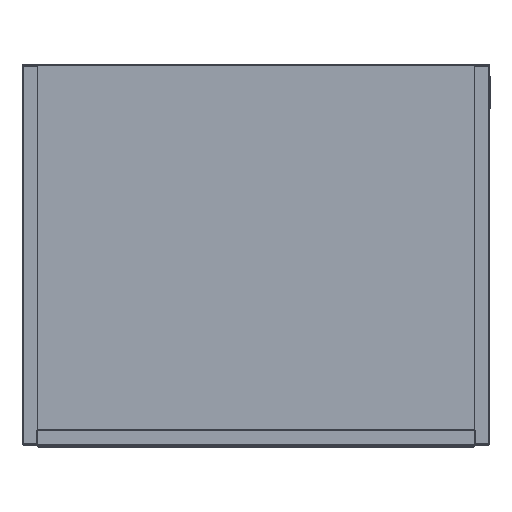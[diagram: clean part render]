
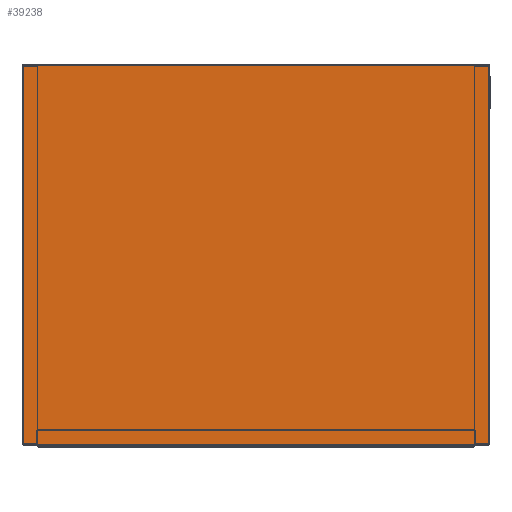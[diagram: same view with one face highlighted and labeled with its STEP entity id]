
A CAD part, top view. The second image highlights one B-rep face of the part: STEP entity #39238.
In plain terms, the highlighted planar face has unit normal (0, 0, 1).
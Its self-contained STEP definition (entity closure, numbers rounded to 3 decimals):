
#3207=ORIENTED_EDGE('',*,*,#13488,.F.);
#3208=ORIENTED_EDGE('',*,*,#13497,.T.);
#3209=ORIENTED_EDGE('',*,*,#13490,.F.);
#3210=ORIENTED_EDGE('',*,*,#13498,.T.);
#3211=ORIENTED_EDGE('',*,*,#13496,.F.);
#3212=ORIENTED_EDGE('',*,*,#13499,.T.);
#3213=ORIENTED_EDGE('',*,*,#13482,.F.);
#3214=ORIENTED_EDGE('',*,*,#13500,.T.);
#13482=EDGE_CURVE('',#18806,#18807,#22450,.T.);
#13488=EDGE_CURVE('',#18812,#18810,#22456,.T.);
#13490=EDGE_CURVE('',#18814,#18815,#22458,.T.);
#13496=EDGE_CURVE('',#18820,#18818,#22464,.T.);
#13497=EDGE_CURVE('',#18812,#18815,#22465,.T.);
#13498=EDGE_CURVE('',#18814,#18818,#22466,.T.);
#13499=EDGE_CURVE('',#18820,#18807,#22467,.T.);
#13500=EDGE_CURVE('',#18806,#18810,#22468,.T.);
#18806=VERTEX_POINT('',#58400);
#18807=VERTEX_POINT('',#58402);
#18810=VERTEX_POINT('',#58409);
#18812=VERTEX_POINT('',#58413);
#18814=VERTEX_POINT('',#58418);
#18815=VERTEX_POINT('',#58420);
#18818=VERTEX_POINT('',#58427);
#18820=VERTEX_POINT('',#58431);
#22450=LINE('',#58401,#27022);
#22456=LINE('',#58414,#27028);
#22458=LINE('',#58419,#27030);
#22464=LINE('',#58432,#27036);
#22465=LINE('',#58434,#27037);
#22466=LINE('',#58435,#27038);
#22467=LINE('',#58436,#27039);
#22468=LINE('',#58437,#27040);
#27022=VECTOR('',#47934,1000.);
#27028=VECTOR('',#47942,1000.);
#27030=VECTOR('',#47946,1000.);
#27036=VECTOR('',#47954,1000.);
#27037=VECTOR('',#47957,1000.);
#27038=VECTOR('',#47958,1000.);
#27039=VECTOR('',#47959,1000.);
#27040=VECTOR('',#47960,1000.);
#31676=EDGE_LOOP('',(#3207,#3208,#3209,#3210,#3211,#3212,#3213,#3214));
#34816=FACE_BOUND('',#31676,.T.);
#37523=PLANE('',#43847);
#39238=ADVANCED_FACE('',(#34816),#37523,.T.);
#43847=AXIS2_PLACEMENT_3D('',#58433,#47955,#47956);
#47934=DIRECTION('',(0.,1.,0.));
#47942=DIRECTION('',(0.,1.,0.));
#47946=DIRECTION('',(0.,-1.,0.));
#47954=DIRECTION('',(0.,-1.,0.));
#47955=DIRECTION('',(0.,0.,1.));
#47956=DIRECTION('',(1.,0.,0.));
#47957=DIRECTION('',(1.,0.,0.));
#47958=DIRECTION('',(0.,1.,0.));
#47959=DIRECTION('',(-1.,0.,0.));
#47960=DIRECTION('',(0.,-1.,0.));
#58400=CARTESIAN_POINT('',(-273.148,336.896,0.));
#58401=CARTESIAN_POINT('',(-273.148,-336.898,0.));
#58402=CARTESIAN_POINT('',(-273.148,336.898,0.));
#58409=CARTESIAN_POINT('',(-273.148,-336.896,0.));
#58413=CARTESIAN_POINT('',(-273.148,-336.898,0.));
#58414=CARTESIAN_POINT('',(-273.148,-336.898,0.));
#58418=CARTESIAN_POINT('',(273.148,-336.896,0.));
#58419=CARTESIAN_POINT('',(273.148,336.898,0.));
#58420=CARTESIAN_POINT('',(273.148,-336.898,0.));
#58427=CARTESIAN_POINT('',(273.148,336.896,0.));
#58431=CARTESIAN_POINT('',(273.148,336.898,0.));
#58432=CARTESIAN_POINT('',(273.148,336.898,0.));
#58433=CARTESIAN_POINT('',(-273.15,-336.9,0.));
#58434=CARTESIAN_POINT('',(-273.15,-336.898,0.));
#58435=CARTESIAN_POINT('',(273.148,-336.896,0.));
#58436=CARTESIAN_POINT('',(273.15,336.898,0.));
#58437=CARTESIAN_POINT('',(-273.148,336.896,0.));
